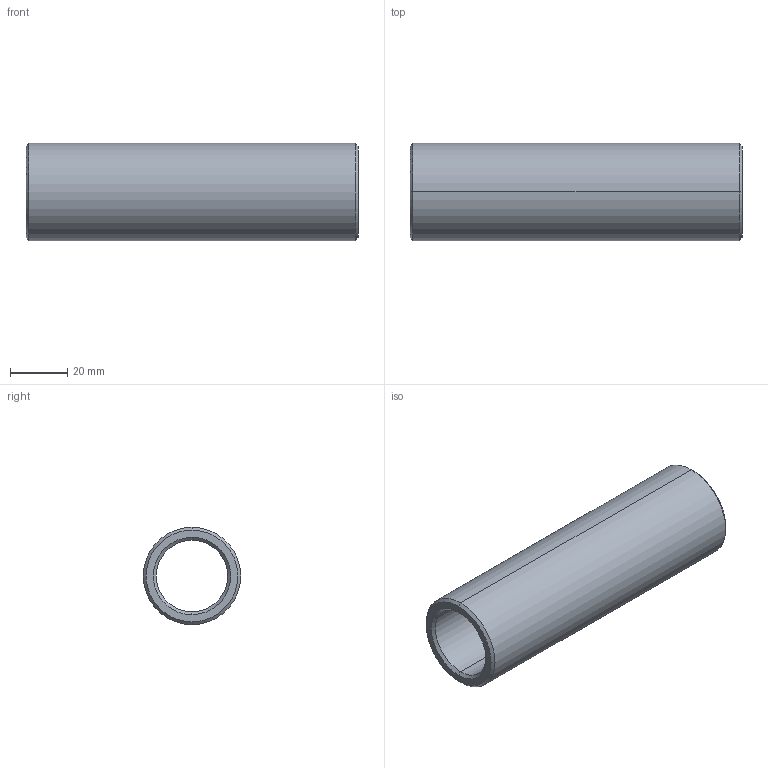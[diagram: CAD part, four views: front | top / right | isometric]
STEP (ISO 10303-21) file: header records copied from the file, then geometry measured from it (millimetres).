
FILE_DESCRIPTION(('CATIA V5 STEP Exchange'),'2;1');
FILE_NAME('C:\Users\Utente\Desktop\IO LAVORO\3D X SITO CF\X SITO\PLASTICA\352\352-25X116.stp','2021-04-14T15:05:26+00:00',('none'),('none'),'CATIA Version 5 Release 20 GA (IN-10)','CATIA V5 STEP AP203','none');
FILE_SCHEMA(('CONFIG_CONTROL_DESIGN'));
Length unit declared in the file: millimetre
Products named in the file (1): 352-25X116
Bounding box: 116 x 34 x 34 mm (x, y, z)
Volume: 48215.2 mm3; surface area: 22129.4 mm2
Topology: 1 solids, 1 shells, 14 faces, 44 edges, 32 vertices
Faces by surface type: cone 6, cylinder 4, plane 2, torus 2
Entity records: 634 total; most frequent: CARTESIAN_POINT 203, ORIENTED_EDGE 88, DIRECTION 64, EDGE_CURVE 44, AXIS2_PLACEMENT_3D 41, VERTEX_POINT 32, CIRCLE 26, EDGE_LOOP 16
